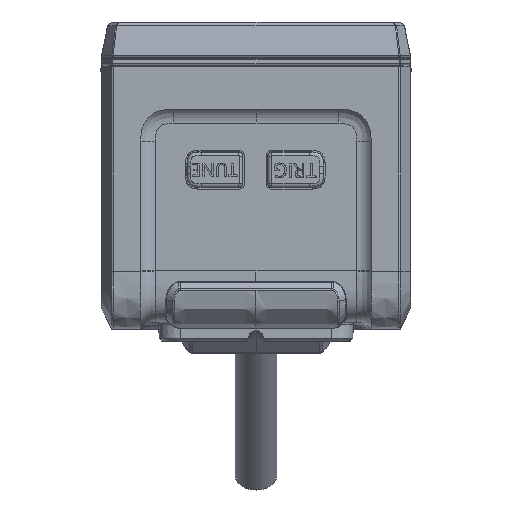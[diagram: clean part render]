
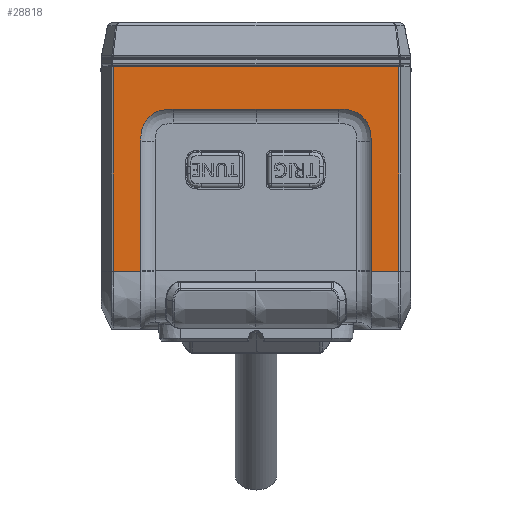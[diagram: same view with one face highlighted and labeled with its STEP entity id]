
A CAD part, top view. The second image highlights one B-rep face of the part: STEP entity #28818.
In plain terms, the highlighted planar face has unit normal (0, 0, 1).
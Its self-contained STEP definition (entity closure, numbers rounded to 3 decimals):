
#4511=CARTESIAN_POINT('',(-82.603,9.122,169.638));
#4518=DIRECTION('',(1.,0.,0.));
#4519=VECTOR('',#4518,11.5);
#4520=CARTESIAN_POINT('',(-82.603,9.122,169.638));
#4521=LINE('',#4520,#4519);
#4522=CARTESIAN_POINT('',(-71.103,9.122,169.638));
#4531=DIRECTION('',(0.,-1.,0.));
#4532=VECTOR('',#4531,28.4);
#4533=CARTESIAN_POINT('',(-102.418,15.,169.638));
#4534=LINE('',#4533,#4532);
#4535=DIRECTION('',(1.,0.,0.));
#4536=VECTOR('',#4535,39.629);
#4537=CARTESIAN_POINT('',(-102.418,15.,169.638));
#4538=LINE('',#4537,#4536);
#4539=DIRECTION('',(0.,1.,0.));
#4540=VECTOR('',#4539,28.4);
#4541=CARTESIAN_POINT('',(-62.789,-13.4,
169.638));
#4542=LINE('',#4541,#4540);
#4543=CARTESIAN_POINT('',(-66.603,4.622,169.638));
#4544=CARTESIAN_POINT('',(-66.603,4.881,169.638));
#4545=CARTESIAN_POINT('',(-66.624,5.373,169.638));
#4546=CARTESIAN_POINT('',(-66.736,6.114,169.638));
#4547=CARTESIAN_POINT('',(-66.942,6.81,169.638));
#4548=CARTESIAN_POINT('',(-67.264,7.456,169.638));
#4549=CARTESIAN_POINT('',(-67.716,8.023,169.638));
#4550=CARTESIAN_POINT('',(-68.282,8.469,169.638));
#4551=CARTESIAN_POINT('',(-68.922,8.785,169.638));
#4552=CARTESIAN_POINT('',(-69.612,8.989,169.638));
#4553=CARTESIAN_POINT('',(-70.351,9.101,169.638));
#4554=CARTESIAN_POINT('',(-70.844,9.122,169.638));
#4555=CARTESIAN_POINT('',(-71.103,9.122,169.638));
#4557=DIRECTION('',(-1.,0.,0.));
#4558=VECTOR('',#4557,11.5);
#4559=CARTESIAN_POINT('',(-82.603,9.122,169.638));
#4560=LINE('',#4559,#4558);
#4561=CARTESIAN_POINT('',(-94.103,9.122,169.638));
#4562=CARTESIAN_POINT('',(-94.362,9.122,169.638));
#4563=CARTESIAN_POINT('',(-94.854,9.101,169.638));
#4564=CARTESIAN_POINT('',(-95.595,8.989,169.638));
#4565=CARTESIAN_POINT('',(-96.292,8.783,169.638));
#4566=CARTESIAN_POINT('',(-96.938,8.461,169.638));
#4567=CARTESIAN_POINT('',(-97.504,8.009,169.638));
#4568=CARTESIAN_POINT('',(-97.951,7.443,169.638));
#4569=CARTESIAN_POINT('',(-98.267,6.804,169.638));
#4570=CARTESIAN_POINT('',(-98.471,6.113,169.638));
#4571=CARTESIAN_POINT('',(-98.583,5.374,169.638));
#4572=CARTESIAN_POINT('',(-98.603,4.881,169.638));
#4573=CARTESIAN_POINT('',(-98.603,4.622,169.638));
#4575=DIRECTION('',(0.,-1.,0.));
#4576=VECTOR('',#4575,17.976);
#4577=CARTESIAN_POINT('',(-98.603,4.622,169.638));
#4578=LINE('',#4577,#4576);
#4579=DIRECTION('',(0.,-1.,0.));
#4580=VECTOR('',#4579,0.046);
#4581=CARTESIAN_POINT('',(-98.603,-13.354,
169.638));
#4582=LINE('',#4581,#4580);
#4607=DIRECTION('',(1.,0.,0.));
#4608=VECTOR('',#4607,3.815);
#4609=CARTESIAN_POINT('',(-102.418,-13.4,
169.638));
#4610=LINE('',#4609,#4608);
#5014=DIRECTION('',(0.,-1.,0.));
#5015=VECTOR('',#5014,0.046);
#5016=CARTESIAN_POINT('',(-66.603,-13.354,
169.638));
#5017=LINE('',#5016,#5015);
#5027=DIRECTION('',(0.,-1.,0.));
#5028=VECTOR('',#5027,17.976);
#5029=CARTESIAN_POINT('',(-66.603,4.622,169.638));
#5030=LINE('',#5029,#5028);
#5031=CARTESIAN_POINT('',(-66.603,-13.354,
169.638));
#5036=CARTESIAN_POINT('',(-66.603,4.622,169.638));
#5080=CARTESIAN_POINT('',(-66.603,-13.4,
169.638));
#5082=DIRECTION('',(1.,0.,0.));
#5083=VECTOR('',#5082,3.815);
#5084=CARTESIAN_POINT('',(-66.603,-13.4,
169.638));
#5085=LINE('',#5084,#5083);
#19532=VERTEX_POINT('',#4561);
#19533=VERTEX_POINT('',#4573);
#19534=CARTESIAN_POINT('',(-98.603,-13.354,
169.638));
#19535=VERTEX_POINT('',#19534);
#19536=CARTESIAN_POINT('',(-98.603,-13.4,
169.638));
#19537=VERTEX_POINT('',#19536);
#19611=VERTEX_POINT('',#5080);
#19612=VERTEX_POINT('',#5031);
#19613=VERTEX_POINT('',#5036);
#19614=VERTEX_POINT('',#4522);
#19648=VERTEX_POINT('',#4511);
#20064=CARTESIAN_POINT('',(-102.418,15.,169.638));
#20065=CARTESIAN_POINT('',(-102.418,-13.4,
169.638));
#20066=VERTEX_POINT('',#20064);
#20067=VERTEX_POINT('',#20065);
#20098=CARTESIAN_POINT('',(-62.789,-13.4,
169.638));
#20099=CARTESIAN_POINT('',(-62.789,15.,169.638));
#20100=VERTEX_POINT('',#20098);
#20101=VERTEX_POINT('',#20099);
#28787=CARTESIAN_POINT('',(-103.033,-13.686,
169.638));
#28788=DIRECTION('',(0.,0.,1.));
#28789=DIRECTION('',(1.,0.,0.));
#28790=AXIS2_PLACEMENT_3D('',#28787,#28788,#28789);
#28791=PLANE('',#28790);
#28793=ORIENTED_EDGE('',*,*,#28792,.F.);
#28795=ORIENTED_EDGE('',*,*,#28794,.T.);
#28797=ORIENTED_EDGE('',*,*,#28796,.F.);
#28799=ORIENTED_EDGE('',*,*,#28798,.F.);
#28801=ORIENTED_EDGE('',*,*,#28800,.F.);
#28803=ORIENTED_EDGE('',*,*,#28802,.F.);
#28805=ORIENTED_EDGE('',*,*,#28804,.T.);
#28806=ORIENTED_EDGE('',*,*,#28779,.F.);
#28807=ORIENTED_EDGE('',*,*,#28763,.T.);
#28809=ORIENTED_EDGE('',*,*,#28808,.T.);
#28811=ORIENTED_EDGE('',*,*,#28810,.T.);
#28813=ORIENTED_EDGE('',*,*,#28812,.T.);
#28815=ORIENTED_EDGE('',*,*,#28814,.F.);
#28816=EDGE_LOOP('',(#28793,#28795,#28797,#28799,#28801,#28803,#28805,#28806,
#28807,#28809,#28811,#28813,#28815));
#28817=FACE_OUTER_BOUND('',#28816,.F.);
#28818=ADVANCED_FACE('',(#28817),#28791,.T.);
#4556=B_SPLINE_CURVE_WITH_KNOTS('',3,(#4543,#4544,#4545,#4546,#4547,#4548,#4549,
#4550,#4551,#4552,#4553,#4554,#4555),.UNSPECIFIED.,.F.,.F.,(4,1,1,1,1,1,1,1,1,1,
4),(0.,0.119,0.227,0.327,
0.417,0.501,0.585,0.674,
0.772,0.881,1.),.UNSPECIFIED.);
#4574=B_SPLINE_CURVE_WITH_KNOTS('',3,(#4561,#4562,#4563,#4564,#4565,#4566,#4567,
#4568,#4569,#4570,#4571,#4572,#4573),.UNSPECIFIED.,.F.,.F.,(4,1,1,1,1,1,1,1,1,1,
4),(0.,0.119,0.227,0.327,
0.417,0.501,0.585,0.674,
0.772,0.881,1.),.UNSPECIFIED.);
#28763=EDGE_CURVE('',#19648,#19532,#4560,.T.);
#28779=EDGE_CURVE('',#19648,#19614,#4521,.T.);
#28792=EDGE_CURVE('',#20066,#20067,#4534,.T.);
#28794=EDGE_CURVE('',#20066,#20101,#4538,.T.);
#28796=EDGE_CURVE('',#20100,#20101,#4542,.T.);
#28798=EDGE_CURVE('',#19611,#20100,#5085,.T.);
#28800=EDGE_CURVE('',#19612,#19611,#5017,.T.);
#28802=EDGE_CURVE('',#19613,#19612,#5030,.T.);
#28804=EDGE_CURVE('',#19613,#19614,#4556,.T.);
#28808=EDGE_CURVE('',#19532,#19533,#4574,.T.);
#28810=EDGE_CURVE('',#19533,#19535,#4578,.T.);
#28812=EDGE_CURVE('',#19535,#19537,#4582,.T.);
#28814=EDGE_CURVE('',#20067,#19537,#4610,.T.);
